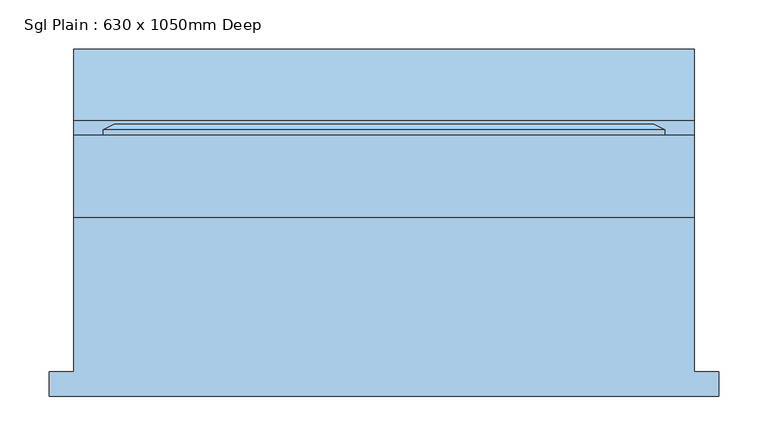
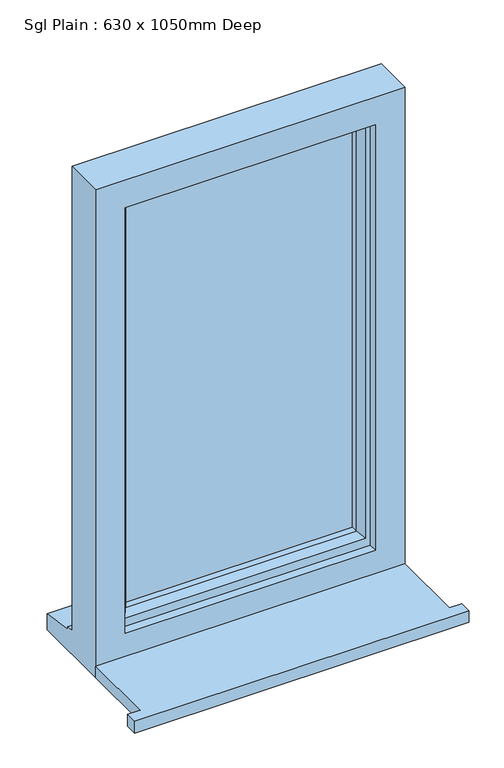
"""IFC4 building model written with IfcOpenShell, lengths in millimetres: window geometry, Sgl Plain : 630 x 1050mm Deep."""

import ifcopenshell
import ifcopenshell.guid

model = None  # the IFC model being written
_history = None  # IfcOwnerHistory: only IFC2X3 demands one
_inside = {}  # id of a spatial element -> (the spatial element, [elements in it])
_under = {}  # id of a project, library or spatial element -> (it, [spatial elements below it])
_declared = {}  # id of a project -> (the project, [libraries it declares])
_typed = {}  # id of a type object -> (the type object, [elements of that type])
_made_of = {}  # id of a material, layer set ... -> (it, [elements and type objects made of it])


def new_model(schema):
    """Start an empty IFC model of exactly this schema.

    Asked for "IFC4X3", IfcOpenShell would pick the latest addendum, in which some entities
    have other attributes; the version numbers below select the first issue.
    IFC2X3 requires an IfcOwnerHistory on every rooted entity: one is made here for all.
    """
    global model, _history
    if schema == "IFC4X3":
        model = ifcopenshell.file(schema_version=(4, 3, 0, 0))
    else:
        model = ifcopenshell.file(schema=schema)
    _inside.clear()
    _under.clear()
    _declared.clear()
    _typed.clear()
    _made_of.clear()
    _history = None
    if model.schema == "IFC2X3":
        org = make("IfcOrganization", Name="unknown")
        user = make(
            "IfcPersonAndOrganization",
            ThePerson=make("IfcPerson", FamilyName="unknown"),
            TheOrganization=org,
        )
        app = make(
            "IfcApplication",
            ApplicationDeveloper=org,
            Version="unknown",
            ApplicationFullName="unknown",
            ApplicationIdentifier="unknown",
        )
        _history = make(
            "IfcOwnerHistory",
            OwningUser=user,
            OwningApplication=app,
            ChangeAction="ADDED",
            CreationDate=0,
        )
    return model


def make(cls, **values):
    """One entity of the class cls with the attributes given. An attribute that is None is left unset."""
    return model.create_entity(
        cls, **{name: value for name, value in values.items() if value is not None}
    )


def rooted(cls, **values):
    """An entity with a GlobalId (a new one), such as an element, a storey or a relation."""
    return make(cls, GlobalId=ifcopenshell.guid.new(), OwnerHistory=_history, **values)


def si_unit(unit_type, name, prefix=None):
    """IfcSIUnit, for example si_unit("LENGTHUNIT", "METRE", prefix="MILLI")."""
    return make("IfcSIUnit", UnitType=unit_type, Prefix=prefix, Name=name)


def assignment(units):
    """IfcUnitAssignment: the units of a project."""
    return None if units is None else make("IfcUnitAssignment", Units=units)


def point(xyz):
    """IfcCartesianPoint."""
    return None if xyz is None else make("IfcCartesianPoint", Coordinates=xyz)


def direction(xyz):
    """IfcDirection."""
    return None if xyz is None else make("IfcDirection", DirectionRatios=xyz)


def frame(location, z_axis=None, x_axis=None):
    """IfcAxis2Placement3D, a coordinate frame: its origin and axes. An axis left out is left unset."""
    return make(
        "IfcAxis2Placement3D",
        Location=point(location),
        Axis=direction(z_axis),
        RefDirection=direction(x_axis),
    )


def origin():
    """The frame at (0, 0, 0) with its axes left unset."""
    return frame((0.0, 0.0, 0.0))


def place(relative_to, where):
    """IfcLocalPlacement: puts the frame where relative to a parent placement (None: the world)."""
    return make(
        "IfcLocalPlacement", PlacementRelTo=relative_to, RelativePlacement=where
    )


def context(
    kind, dimensions, precision=None, world=None, true_north=None, identifier=None
):
    """IfcGeometricRepresentationContext, for example the 3D "Model" context."""
    return make(
        "IfcGeometricRepresentationContext",
        ContextIdentifier=identifier,
        ContextType=kind,
        CoordinateSpaceDimension=dimensions,
        Precision=precision,
        WorldCoordinateSystem=world,
        TrueNorth=true_north,
    )


def project(units=None, contexts=None):
    """IfcProject with its units and contexts."""
    return rooted(
        "IfcProject",
        Name="project",
        RepresentationContexts=contexts,
        UnitsInContext=assignment(units),
    )


def spatial(cls, under=None, at=None, **own):
    """A site, building, storey or space (cls), placed at a placement, below another one or the project."""
    s = rooted(cls, ObjectPlacement=at, **own)
    if under is not None:
        _under.setdefault(under.id(), (under, []))[1].append(s)
    return s


def polyline(points):
    """IfcPolyline through the points."""
    return make("IfcPolyline", Points=[point(p) for p in points])


def outline(outer, holes=None, kind="AREA"):
    """IfcArbitraryClosedProfileDef: a profile drawn as a closed curve; with holes, ...WithVoids."""
    if holes is None:
        return make("IfcArbitraryClosedProfileDef", ProfileType=kind, OuterCurve=outer)
    return make(
        "IfcArbitraryProfileDefWithVoids",
        ProfileType=kind,
        OuterCurve=outer,
        InnerCurves=holes,
    )


def extrude(swept, where, along, depth):
    """IfcExtrudedAreaSolid: the profile swept, set in the frame where, extruded along a direction by depth."""
    return make(
        "IfcExtrudedAreaSolid",
        SweptArea=swept,
        Position=where,
        ExtrudedDirection=direction(along),
        Depth=depth,
    )


def faces_of(points, faces, orient=None, outer=None):
    """IfcFace entities. A face is a list of loops; a loop is a list of indices into points, from 0.

    orient and outer hold one flag for each loop. By default every Orientation is true, the
    first loop of a face is its IfcFaceOuterBound and the others are IfcFaceBound.
    """
    made = []
    for i, loops in enumerate(faces):
        bounds = []
        for j, loop in enumerate(loops):
            is_outer = j == 0 if outer is None else outer[i][j]
            bounds.append(
                make(
                    "IfcFaceOuterBound" if is_outer else "IfcFaceBound",
                    Bound=make("IfcPolyLoop", Polygon=[points[k] for k in loop]),
                    Orientation=True if orient is None else orient[i][j],
                )
            )
        made.append(make("IfcFace", Bounds=bounds))
    return made


def faceted_brep(points, faces, orient=None, outer=None, voids=None):
    """IfcFacetedBrep: a solid bounded by flat faces; with voids (closed shells), ...WithVoids."""
    shared = [point(p) for p in points]
    hull = make("IfcClosedShell", CfsFaces=faces_of(shared, faces, orient, outer))
    if voids is None:
        return make("IfcFacetedBrep", Outer=hull)
    return make(
        "IfcFacetedBrepWithVoids",
        Outer=hull,
        Voids=[
            make(cls, CfsFaces=faces_of(shared, fs, o, b)) for cls, fs, o, b in voids
        ],
    )


def shape(context_of_items, identifier, shape_type, items):
    """IfcShapeRepresentation: the items that make up one representation, for example the "Body"."""
    return make(
        "IfcShapeRepresentation",
        ContextOfItems=context_of_items,
        RepresentationIdentifier=identifier,
        RepresentationType=shape_type,
        Items=items,
    )


def source(mapping_origin, context_of_items, identifier, shape_type, items):
    """IfcRepresentationMap: a shape defined once, which mapped items show again and again."""
    return make(
        "IfcRepresentationMap",
        MappingOrigin=mapping_origin,
        MappedRepresentation=shape(context_of_items, identifier, shape_type, items),
    )


def transform(
    local_origin,
    x_axis=None,
    y_axis=None,
    z_axis=None,
    scale=None,
    scale2=None,
    scale3=None,
    uniform=True,
):
    """IfcCartesianTransformationOperator3D, or its non-uniform kind. x_axis, y_axis, z_axis: its Axis1, 2, 3."""
    if uniform:
        return make(
            "IfcCartesianTransformationOperator3D",
            Axis1=direction(x_axis),
            Axis2=direction(y_axis),
            LocalOrigin=point(local_origin),
            Scale=scale,
            Axis3=direction(z_axis),
        )
    return make(
        "IfcCartesianTransformationOperator3DnonUniform",
        Axis1=direction(x_axis),
        Axis2=direction(y_axis),
        LocalOrigin=point(local_origin),
        Scale=scale,
        Axis3=direction(z_axis),
        Scale2=scale2,
        Scale3=scale3,
    )


def mapped(mapping_source, mapping_target):
    """IfcMappedItem: shows the shape of a source again, moved by a transform."""
    return make(
        "IfcMappedItem", MappingSource=mapping_source, MappingTarget=mapping_target
    )


def made_of(thing, what):
    """Note that an element or type object is made of a material, layer set ...; save() writes the relation."""
    if what is not None:
        _made_of.setdefault(what.id(), (what, []))[1].append(thing)
    return thing


def element(
    cls,
    number,
    at=None,
    inside=None,
    cuts=None,
    type_object=None,
    material=None,
    context=None,
    identifier="Body",
    shape_type=None,
    held_by="IfcProductDefinitionShape",
    body=None,
    shapes=None,
    **own,
):
    """One element of the class cls, such as IfcWall. Its Tag is "e" and its number.

    at: its placement. inside: the storey or other place that contains it. cuts: it is an
    opening in that element (IfcRelVoidsElement). A single representation is given by context,
    identifier, shape_type and body (its items); several are given by shapes. held_by: the class
    of the entity that holds the representations. save() writes the other relations.
    """
    e = rooted(cls, Tag="e%d" % number, ObjectPlacement=at, **own)
    if body is not None:
        shapes = [shape(context, identifier, shape_type, body)]
    if shapes is not None:
        e.Representation = make(held_by, Representations=shapes)
    if inside is not None:
        _inside.setdefault(inside.id(), (inside, []))[1].append(e)
    if cuts is not None:
        rooted(
            "IfcRelVoidsElement", RelatingBuildingElement=cuts, RelatedOpeningElement=e
        )
    if type_object is not None:
        _typed.setdefault(type_object.id(), (type_object, []))[1].append(e)
    return made_of(e, material)


def aggregate(whole, parts):
    """IfcRelAggregates: a whole, such as a stair, and the parts it consists of."""
    return rooted("IfcRelAggregates", RelatingObject=whole, RelatedObjects=parts)


def save(model, path):
    """Write the relations noted so far, then the file.

    IfcRelAggregates (storeys below a building ...), IfcRelContainedInSpatialStructure (elements
    in a storey), IfcRelDefinesByType, IfcRelAssociatesMaterial and IfcRelDeclares: one each for
    every whole, place, type object, material and project.
    """
    for whole, parts in _under.values():
        aggregate(whole, parts)
    for where, things in _inside.values():
        rooted(
            "IfcRelContainedInSpatialStructure",
            RelatedElements=things,
            RelatingStructure=where,
        )
    for kind, things in _typed.values():
        rooted("IfcRelDefinesByType", RelatedObjects=things, RelatingType=kind)
    for what, things in _made_of.values():
        rooted("IfcRelAssociatesMaterial", RelatedObjects=things, RelatingMaterial=what)
    for by, libraries in _declared.values():
        rooted("IfcRelDeclares", RelatingContext=by, RelatedDefinitions=libraries)
    model.write(path)


def sgl_plain_630_x_1050mm_deep_554a1539(model_context):
    return source(origin(), model_context, "Body", "SolidModel", [
        extrude(outline(polyline([(-340.0, -161.5434322), (-340.0, -136.5434322), (-315.0, -136.5434322), (-315.0, 20.4565678), (315.0, 20.4565678), (315.0, -136.5434322), (340.0, -136.5434322), (340.0, -161.5434322), (-340.0, -161.5434322)])), frame((0.0, 0.0, 1060.0), z_axis=(0.0, 0.0, 1.0), x_axis=(1.0, 0.0, 0.0)), (0.0, 0.0, 1.0), 25.0),
        faceted_brep([(-315.0, 20.4565678, 1060.0), (315.0, 20.4565678, 1060.0), (315.0, 20.4565678, 2110.0), (-315.0, 20.4565678, 2110.0), (-255.0, 20.4565678, 2050.0), (255.0, 20.4565678, 2050.0), (255.0, 20.4565678, 1135.0), (-255.0, 20.4565678, 1135.0), (-315.0, 103.4565678, 2110.0), (-315.0, 103.4565678, 1111.0), (-315.0, 118.4565678, 1109.68767), (-315.0, 118.4565678, 1104.7449676), (-315.0, 190.9565678, 1093.8088847), (-315.0, 190.9565678, 1060.0), (315.0, 103.4565678, 2110.0), (315.0, 103.4565678, 1111.0), (-275.0, 103.4565678, 2070.0), (-275.0, 103.4565678, 1123.0), (275.0, 103.4565678, 1123.0), (275.0, 103.4565678, 2070.0), (-275.0, 38.4565678, 2070.0), (-275.0, 38.4565678, 1123.0), (275.0, 38.4565678, 2070.0), (275.0, 38.4565678, 1123.0), (-255.0, 38.4565678, 2050.0), (-255.0, 38.4565678, 1135.0), (255.0, 38.4565678, 1135.0), (255.0, 38.4565678, 2050.0), (315.0, 190.9565678, 1060.0), (315.0, 190.9565678, 1093.8088847), (315.0, 118.4565678, 1104.7449676), (315.0, 118.4565678, 1109.68767)], [[[0, 1, 2, 3], [4, 5, 6, 7]], [[0, 3, 8, 9, 10, 11, 12, 13]], [[9, 8, 14, 15], [16, 17, 18, 19]], [[17, 16, 20, 21]], [[20, 22, 23, 21], [24, 25, 26, 27]], [[24, 4, 7, 25]], [[3, 2, 14, 8]], [[16, 19, 22, 20]], [[5, 4, 24, 27]], [[15, 14, 2, 1, 28, 29, 30, 31]], [[19, 18, 23, 22]], [[5, 27, 26, 6]], [[28, 1, 0, 13]], [[29, 28, 13, 12]], [[30, 29, 12, 11]], [[31, 30, 11, 10]], [[15, 31, 10, 9]], [[21, 23, 18, 17]], [[7, 6, 26, 25]]]),
        extrude(outline(polyline([(245.0, 67.4565678), (-245.0, 67.4565678), (-245.0, 91.4565678), (245.0, 91.4565678), (245.0, 67.4565678)])), frame((0.0, 0.0, 1153.0), z_axis=(0.0, 0.0, 1.0), x_axis=(1.0, 0.0, 0.0)), (0.0, 0.0, 1.0), 887.0),
        faceted_brep([(-285.0, 103.4565678, 2080.0), (-285.0, 109.2300705, 2080.0), (-285.0, 109.2300705, 1113.0), (-285.0, 103.4565678, 1113.0), (-275.0, 38.4565678, 2070.0), (-275.0, 103.4565678, 2070.0), (-275.0, 103.4565678, 1123.0), (-275.0, 38.4565678, 1123.0), (-235.0, 52.9494677, 2030.0), (-245.1480377, 38.4565678, 2040.1480377), (-245.1480377, 38.4565678, 1152.8519623), (-235.0, 52.9494677, 1163.0), (-235.0, 67.4565678, 2030.0), (-235.0, 67.4565678, 1163.0), (-245.0, 91.4565678, 2040.0), (-245.0, 67.4565678, 2040.0), (-245.0, 67.4565678, 1153.0), (-245.0, 91.4565678, 1153.0), (-235.0, 109.2300705, 2030.0), (-235.0, 91.4565678, 2030.0), (-235.0, 91.4565678, 1163.0), (-235.0, 109.2300705, 1163.0), (-252.4457548, 115.0035732, 2047.4457548), (-252.4457548, 115.0035732, 1145.5542452), (-274.2153903, 115.0035732, 2069.2153903), (-274.2153903, 115.0035732, 1123.7846097), (285.0, 109.2300705, 1113.0), (285.0, 103.4565678, 1113.0), (275.0, 103.4565678, 1123.0), (275.0, 38.4565678, 1123.0), (245.1480377, 38.4565678, 1152.8519623), (235.0, 52.9494677, 1163.0), (235.0, 67.4565678, 1163.0), (245.0, 67.4565678, 1153.0), (245.0, 91.4565678, 1153.0), (235.0, 91.4565678, 1163.0), (235.0, 109.2300705, 1163.0), (252.4457548, 115.0035732, 1145.5542452), (274.2153903, 115.0035732, 1123.7846097), (285.0, 109.2300705, 2080.0), (285.0, 103.4565678, 2080.0), (275.0, 103.4565678, 2070.0), (275.0, 38.4565678, 2070.0), (245.1480377, 38.4565678, 2040.1480377), (235.0, 52.9494677, 2030.0), (235.0, 67.4565678, 2030.0), (245.0, 67.4565678, 2040.0), (245.0, 91.4565678, 2040.0), (235.0, 91.4565678, 2030.0), (235.0, 109.2300705, 2030.0), (252.4457548, 115.0035732, 2047.4457548), (274.2153903, 115.0035732, 2069.2153903)], [[[0, 1, 2, 3]], [[4, 5, 6, 7]], [[8, 9, 10, 11]], [[12, 8, 11, 13]], [[14, 15, 16, 17]], [[18, 19, 20, 21]], [[22, 18, 21, 23]], [[1, 24, 25, 2]], [[3, 2, 26, 27]], [[7, 6, 28, 29]], [[11, 10, 30, 31]], [[13, 11, 31, 32]], [[17, 16, 33, 34]], [[21, 20, 35, 36]], [[23, 21, 36, 37]], [[2, 25, 38, 26]], [[27, 26, 39, 40]], [[29, 28, 41, 42]], [[31, 30, 43, 44]], [[32, 31, 44, 45]], [[34, 33, 46, 47]], [[36, 35, 48, 49]], [[37, 36, 49, 50]], [[26, 38, 51, 39]], [[40, 39, 1, 0]], [[3, 27, 40, 0], [5, 41, 28, 6]], [[42, 41, 5, 4]], [[7, 29, 42, 4], [9, 43, 30, 10]], [[44, 43, 9, 8]], [[45, 44, 8, 12]], [[15, 46, 33, 16], [13, 32, 45, 12]], [[47, 46, 15, 14]], [[17, 34, 47, 14], [19, 48, 35, 20]], [[49, 48, 19, 18]], [[50, 49, 18, 22]], [[24, 51, 38, 25], [23, 37, 50, 22]], [[39, 51, 24, 1]]]),
    ])


if __name__ == "__main__":
    model = new_model("IFC4")
    model_context = context("Model", 3, world=origin())
    ifc_project = project(units=[si_unit("LENGTHUNIT", "METRE", prefix="MILLI")], contexts=[model_context])
    site = spatial("IfcSite", under=ifc_project)
    building = spatial("IfcBuilding", under=site)
    placement = place(None, origin())
    sgl_plain_630_x_1050mm_deep_shape = sgl_plain_630_x_1050mm_deep_554a1539(model_context)
    element("IfcWindow", 1, ObjectType="Sgl Plain : 630 x 1050mm Deep", at=placement, inside=building, context=model_context, shape_type="MappedRepresentation", body=[
        mapped(sgl_plain_630_x_1050mm_deep_shape, transform((0.0, 0.0, 0.0), x_axis=(1.0, 0.0, 0.0), y_axis=(0.0, 1.0, 0.0), z_axis=(0.0, 0.0, 1.0))),
    ])
    save(model, "model.ifc")
